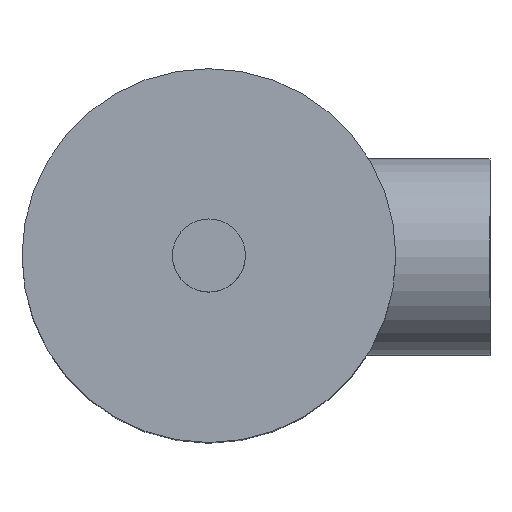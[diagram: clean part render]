
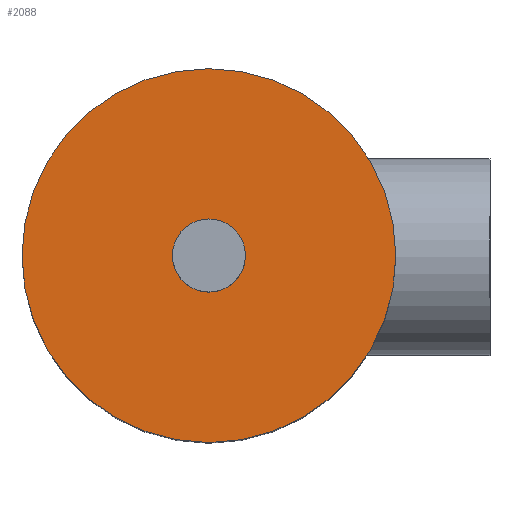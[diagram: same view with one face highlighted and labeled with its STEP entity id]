
A CAD part, top view. The second image highlights one B-rep face of the part: STEP entity #2088.
In plain terms, the highlighted planar face has unit normal (0, 0, 1).
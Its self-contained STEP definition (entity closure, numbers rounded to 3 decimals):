
#2004 = CYLINDRICAL_SURFACE('',#2005,66.5);
#2005 = AXIS2_PLACEMENT_3D('',#2006,#2007,#2008);
#2006 = CARTESIAN_POINT('',(0.,0.,182.5));
#2007 = DIRECTION('',(0.,0.,1.));
#2008 = DIRECTION('',(1.,0.,0.));
#2037 = EDGE_CURVE('',#2038,#2038,#2040,.T.);
#2038 = VERTEX_POINT('',#2039);
#2039 = CARTESIAN_POINT('',(66.5,0.,328.5));
#2040 = SURFACE_CURVE('',#2041,(#2046,#2053),.PCURVE_S1.);
#2041 = CIRCLE('',#2042,66.5);
#2042 = AXIS2_PLACEMENT_3D('',#2043,#2044,#2045);
#2043 = CARTESIAN_POINT('',(0.,0.,328.5));
#2044 = DIRECTION('',(0.,0.,1.));
#2045 = DIRECTION('',(1.,0.,0.));
#2046 = PCURVE('',#2004,#2047);
#2047 = DEFINITIONAL_REPRESENTATION('',(#2048),#2052);
#2048 = LINE('',#2049,#2050);
#2049 = CARTESIAN_POINT('',(0.,146.));
#2050 = VECTOR('',#2051,1.);
#2051 = DIRECTION('',(1.,0.));
#2052 = ( GEOMETRIC_REPRESENTATION_CONTEXT(2) 
PARAMETRIC_REPRESENTATION_CONTEXT() REPRESENTATION_CONTEXT('2D SPACE',''
  ) );
#2053 = PCURVE('',#2054,#2059);
#2054 = PLANE('',#2055);
#2055 = AXIS2_PLACEMENT_3D('',#2056,#2057,#2058);
#2056 = CARTESIAN_POINT('',(0.,0.,328.5));
#2057 = DIRECTION('',(0.,0.,1.));
#2058 = DIRECTION('',(1.,0.,0.));
#2059 = DEFINITIONAL_REPRESENTATION('',(#2060),#2064);
#2060 = CIRCLE('',#2061,66.5);
#2061 = AXIS2_PLACEMENT_2D('',#2062,#2063);
#2062 = CARTESIAN_POINT('',(0.,0.));
#2063 = DIRECTION('',(1.,0.));
#2064 = ( GEOMETRIC_REPRESENTATION_CONTEXT(2) 
PARAMETRIC_REPRESENTATION_CONTEXT() REPRESENTATION_CONTEXT('2D SPACE',''
  ) );
#2088 = ADVANCED_FACE('',(#2089,#2092),#2054,.T.);
#2089 = FACE_BOUND('',#2090,.T.);
#2090 = EDGE_LOOP('',(#2091));
#2091 = ORIENTED_EDGE('',*,*,#2037,.T.);
#2092 = FACE_BOUND('',#2093,.T.);
#2093 = EDGE_LOOP('',(#2094));
#2094 = ORIENTED_EDGE('',*,*,#2095,.F.);
#2095 = EDGE_CURVE('',#2096,#2096,#2098,.T.);
#2096 = VERTEX_POINT('',#2097);
#2097 = CARTESIAN_POINT('',(13.,0.,328.5));
#2098 = SURFACE_CURVE('',#2099,(#2104,#2111),.PCURVE_S1.);
#2099 = CIRCLE('',#2100,13.);
#2100 = AXIS2_PLACEMENT_3D('',#2101,#2102,#2103);
#2101 = CARTESIAN_POINT('',(0.,0.,328.5));
#2102 = DIRECTION('',(0.,0.,1.));
#2103 = DIRECTION('',(1.,0.,-0.));
#2104 = PCURVE('',#2054,#2105);
#2105 = DEFINITIONAL_REPRESENTATION('',(#2106),#2110);
#2106 = CIRCLE('',#2107,13.);
#2107 = AXIS2_PLACEMENT_2D('',#2108,#2109);
#2108 = CARTESIAN_POINT('',(0.,0.));
#2109 = DIRECTION('',(1.,0.));
#2110 = ( GEOMETRIC_REPRESENTATION_CONTEXT(2) 
PARAMETRIC_REPRESENTATION_CONTEXT() REPRESENTATION_CONTEXT('2D SPACE',''
  ) );
#2111 = PCURVE('',#2112,#2117);
#2112 = CYLINDRICAL_SURFACE('',#2113,13.);
#2113 = AXIS2_PLACEMENT_3D('',#2114,#2115,#2116);
#2114 = CARTESIAN_POINT('',(0.,0.,58.5));
#2115 = DIRECTION('',(0.,0.,1.));
#2116 = DIRECTION('',(1.,0.,0.));
#2117 = DEFINITIONAL_REPRESENTATION('',(#2118),#2122);
#2118 = LINE('',#2119,#2120);
#2119 = CARTESIAN_POINT('',(0.,270.));
#2120 = VECTOR('',#2121,1.);
#2121 = DIRECTION('',(1.,0.));
#2122 = ( GEOMETRIC_REPRESENTATION_CONTEXT(2) 
PARAMETRIC_REPRESENTATION_CONTEXT() REPRESENTATION_CONTEXT('2D SPACE',''
  ) );
